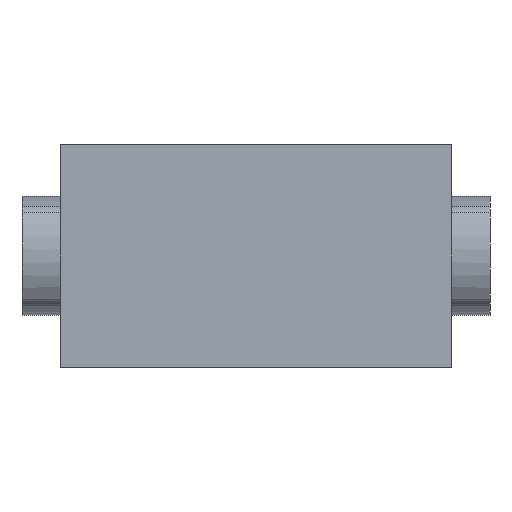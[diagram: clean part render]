
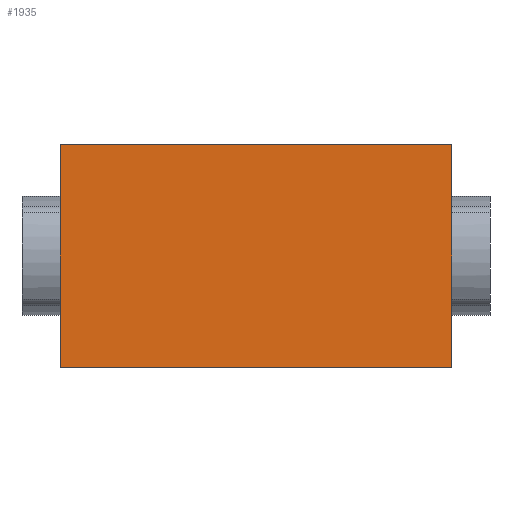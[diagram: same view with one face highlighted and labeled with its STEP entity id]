
A CAD part, front view. The second image highlights one B-rep face of the part: STEP entity #1935.
In plain terms, the highlighted planar face has unit normal (0, -1, 0).
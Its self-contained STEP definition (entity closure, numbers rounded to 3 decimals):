
#143 = LINE ( 'NONE', #848, #2133 ) ;
#152 = EDGE_CURVE ( 'NONE', #2039, #2078, #143, .T. ) ;
#156 = VERTEX_POINT ( 'NONE', #1371 ) ;
#210 = VECTOR ( 'NONE', #1770, 1000. ) ;
#306 = LINE ( 'NONE', #433, #1460 ) ;
#316 = CARTESIAN_POINT ( 'NONE',  ( -33.5, -39.7, -19. ) ) ;
#333 = FACE_OUTER_BOUND ( 'NONE', #1534, .T. ) ;
#344 = ORIENTED_EDGE ( 'NONE', *, *, #601, .T. ) ;
#393 = VECTOR ( 'NONE', #769, 1000. ) ;
#433 = CARTESIAN_POINT ( 'NONE',  ( -33.5, -39.7, 19. ) ) ;
#601 = EDGE_CURVE ( 'NONE', #156, #2039, #306, .T. ) ;
#626 = ORIENTED_EDGE ( 'NONE', *, *, #152, .T. ) ;
#658 = DIRECTION ( 'NONE',  ( 1., 0., 0. ) ) ;
#697 = CARTESIAN_POINT ( 'NONE',  ( 33.5, -39.7, 19. ) ) ;
#717 = DIRECTION ( 'NONE',  ( 0., 0., 1. ) ) ;
#769 = DIRECTION ( 'NONE',  ( 0., 0., -1. ) ) ;
#837 = AXIS2_PLACEMENT_3D ( 'NONE', #1074, #1601, #717 ) ;
#848 = CARTESIAN_POINT ( 'NONE',  ( -33.5, -39.7, -19. ) ) ;
#873 = ORIENTED_EDGE ( 'NONE', *, *, #1190, .F. ) ;
#933 = LINE ( 'NONE', #1636, #393 ) ;
#1005 = CARTESIAN_POINT ( 'NONE',  ( 33.5, -39.7, -19. ) ) ;
#1019 = DIRECTION ( 'NONE',  ( 0., 0., -1. ) ) ;
#1032 = CARTESIAN_POINT ( 'NONE',  ( -33.5, -39.7, 19. ) ) ;
#1074 = CARTESIAN_POINT ( 'NONE',  ( -33.5, -39.7, 19. ) ) ;
#1080 = ORIENTED_EDGE ( 'NONE', *, *, #2231, .F. ) ;
#1190 = EDGE_CURVE ( 'NONE', #156, #2151, #1591, .T. ) ;
#1371 = CARTESIAN_POINT ( 'NONE',  ( -33.5, -39.7, 19. ) ) ;
#1460 = VECTOR ( 'NONE', #1019, 1000. ) ;
#1534 = EDGE_LOOP ( 'NONE', ( #626, #1080, #873, #344 ) ) ;
#1591 = LINE ( 'NONE', #1032, #210 ) ;
#1601 = DIRECTION ( 'NONE',  ( 0., 1., 0. ) ) ;
#1636 = CARTESIAN_POINT ( 'NONE',  ( 33.5, -39.7, 19. ) ) ;
#1770 = DIRECTION ( 'NONE',  ( 1., 0., 0. ) ) ;
#1935 = ADVANCED_FACE ( 'NONE', ( #333 ), #2283, .F. ) ;
#2039 = VERTEX_POINT ( 'NONE', #316 ) ;
#2078 = VERTEX_POINT ( 'NONE', #1005 ) ;
#2133 = VECTOR ( 'NONE', #658, 1000. ) ;
#2151 = VERTEX_POINT ( 'NONE', #697 ) ;
#2231 = EDGE_CURVE ( 'NONE', #2151, #2078, #933, .T. ) ;
#2283 = PLANE ( 'NONE',  #837 ) ;
